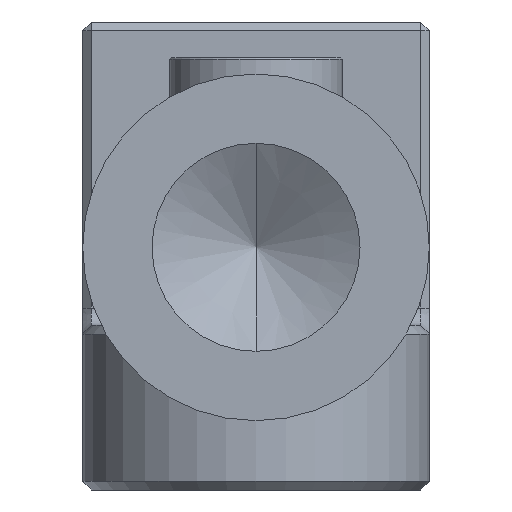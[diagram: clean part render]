
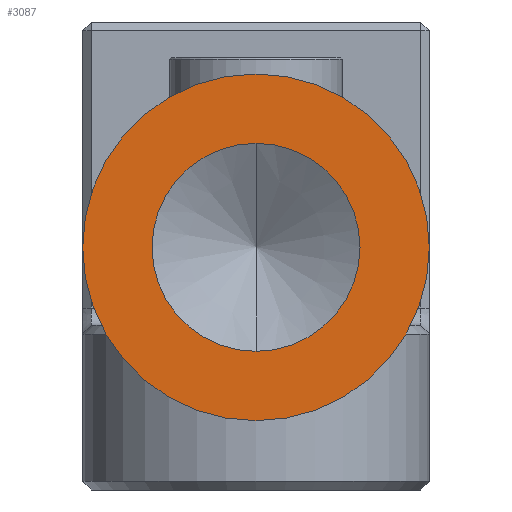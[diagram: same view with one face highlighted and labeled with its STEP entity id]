
A CAD part, front view. The second image highlights one B-rep face of the part: STEP entity #3087.
In plain terms, the highlighted planar face has unit normal (0, -1, 0).
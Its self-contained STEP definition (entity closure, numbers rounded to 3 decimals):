
#12 = CARTESIAN_POINT ( 'NONE',  ( -19.228, -145.019, 17.592 ) ) ;
#29 = VERTEX_POINT ( 'NONE', #4608 ) ;
#130 = DIRECTION ( 'NONE',  ( 0., 0., -1. ) ) ;
#569 = ORIENTED_EDGE ( 'NONE', *, *, #3044, .F. ) ;
#571 = VERTEX_POINT ( 'NONE', #12 ) ;
#1226 = DIRECTION ( 'NONE',  ( 0., 0., -1. ) ) ;
#1359 = CARTESIAN_POINT ( 'NONE',  ( -19.228, -145.019, 27.592 ) ) ;
#1674 = FACE_OUTER_BOUND ( 'NONE', #1829, .T. ) ;
#1706 = AXIS2_PLACEMENT_3D ( 'NONE', #4427, #7571, #7530 ) ;
#1829 = EDGE_LOOP ( 'NONE', ( #6560, #3535 ) ) ;
#2215 = EDGE_CURVE ( 'NONE', #29, #571, #5273, .T. ) ;
#2355 = CARTESIAN_POINT ( 'NONE',  ( -19.228, -145.019, 27.592 ) ) ;
#2400 = DIRECTION ( 'NONE',  ( 0., 0., -1. ) ) ;
#2561 = VERTEX_POINT ( 'NONE', #8088 ) ;
#3038 = CARTESIAN_POINT ( 'NONE',  ( -19.228, -145.019, 27.592 ) ) ;
#3044 = EDGE_CURVE ( 'NONE', #2561, #4323, #6650, .T. ) ;
#3087 = ADVANCED_FACE ( 'NONE', ( #1674, #3612 ), #4925, .T. ) ;
#3535 = ORIENTED_EDGE ( 'NONE', *, *, #2215, .T. ) ;
#3570 = CARTESIAN_POINT ( 'NONE',  ( -19.228, -145.019, 21.592 ) ) ;
#3612 = FACE_BOUND ( 'NONE', #7763, .T. ) ;
#4060 = AXIS2_PLACEMENT_3D ( 'NONE', #1359, #4690, #130 ) ;
#4267 = DIRECTION ( 'NONE',  ( 0., -1., 0. ) ) ;
#4323 = VERTEX_POINT ( 'NONE', #3570 ) ;
#4427 = CARTESIAN_POINT ( 'NONE',  ( -19.228, -145.019, 27.592 ) ) ;
#4608 = CARTESIAN_POINT ( 'NONE',  ( -19.228, -145.019, 37.592 ) ) ;
#4690 = DIRECTION ( 'NONE',  ( 0., -1., 0. ) ) ;
#4925 = PLANE ( 'NONE',  #5844 ) ;
#5273 = CIRCLE ( 'NONE', #7460, 10. ) ;
#5844 = AXIS2_PLACEMENT_3D ( 'NONE', #2355, #7522, #2400 ) ;
#6019 = CIRCLE ( 'NONE', #1706, 10. ) ;
#6134 = EDGE_CURVE ( 'NONE', #571, #29, #6019, .T. ) ;
#6365 = ORIENTED_EDGE ( 'NONE', *, *, #7649, .F. ) ;
#6560 = ORIENTED_EDGE ( 'NONE', *, *, #6134, .T. ) ;
#6647 = CIRCLE ( 'NONE', #4060, 6. ) ;
#6650 = CIRCLE ( 'NONE', #7612, 6. ) ;
#6839 = CARTESIAN_POINT ( 'NONE',  ( -19.228, -145.019, 27.592 ) ) ;
#7460 = AXIS2_PLACEMENT_3D ( 'NONE', #3038, #4267, #1226 ) ;
#7522 = DIRECTION ( 'NONE',  ( 0., -1., 0. ) ) ;
#7530 = DIRECTION ( 'NONE',  ( 0., 0., -1. ) ) ;
#7571 = DIRECTION ( 'NONE',  ( 0., -1., 0. ) ) ;
#7612 = AXIS2_PLACEMENT_3D ( 'NONE', #6839, #8074, #7615 ) ;
#7615 = DIRECTION ( 'NONE',  ( 0., 0., -1. ) ) ;
#7649 = EDGE_CURVE ( 'NONE', #4323, #2561, #6647, .T. ) ;
#7763 = EDGE_LOOP ( 'NONE', ( #6365, #569 ) ) ;
#8074 = DIRECTION ( 'NONE',  ( 0., -1., 0. ) ) ;
#8088 = CARTESIAN_POINT ( 'NONE',  ( -19.228, -145.019, 33.592 ) ) ;
